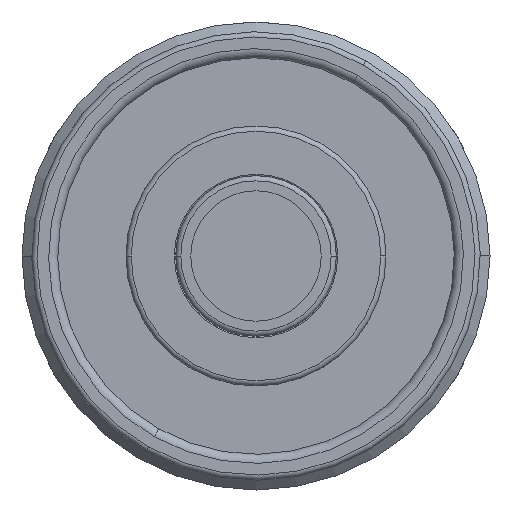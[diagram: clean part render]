
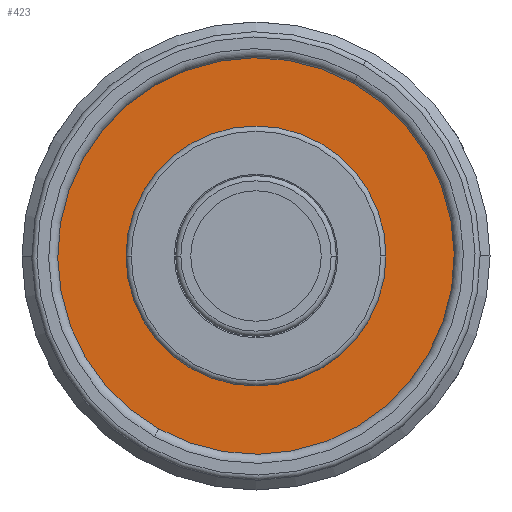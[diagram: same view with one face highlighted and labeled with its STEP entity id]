
A CAD part, front view. The second image highlights one B-rep face of the part: STEP entity #423.
In plain terms, the highlighted planar face has unit normal (0, -1, 0).
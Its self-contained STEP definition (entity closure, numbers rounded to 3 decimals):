
#206=PLANE('',#2432);
#244=FACE_BOUND('',#734,.T.);
#245=FACE_BOUND('',#735,.T.);
#423=ADVANCED_FACE('',(#244,#245),#206,.F.);
#734=EDGE_LOOP('',(#1385,#1386));
#735=EDGE_LOOP('',(#1387,#1388));
#1385=ORIENTED_EDGE('',*,*,#1948,.T.);
#1386=ORIENTED_EDGE('',*,*,#1923,.T.);
#1387=ORIENTED_EDGE('',*,*,#1929,.T.);
#1388=ORIENTED_EDGE('',*,*,#1947,.T.);
#1668=VERTEX_POINT('',#3869);
#1669=VERTEX_POINT('',#3870);
#1670=VERTEX_POINT('',#3878);
#1671=VERTEX_POINT('',#3880);
#1923=EDGE_CURVE('',#1668,#1669,#2131,.T.);
#1929=EDGE_CURVE('',#1671,#1670,#2134,.T.);
#1947=EDGE_CURVE('',#1670,#1671,#2149,.T.);
#1948=EDGE_CURVE('',#1669,#1668,#2150,.T.);
#2131=CIRCLE('',#2399,16.9);
#2134=CIRCLE('',#2404,10.);
#2149=CIRCLE('',#2429,10.);
#2150=CIRCLE('',#2431,16.9);
#2399=AXIS2_PLACEMENT_3D('',#3868,#3014,#3015);
#2404=AXIS2_PLACEMENT_3D('',#3879,#3027,#3028);
#2429=AXIS2_PLACEMENT_3D('',#3916,#3080,#3081);
#2431=AXIS2_PLACEMENT_3D('',#3918,#3084,#3085);
#2432=AXIS2_PLACEMENT_3D('',#3919,#3086,#3087);
#3014=DIRECTION('',(0.,-1.,0.));
#3015=DIRECTION('',(-1.,0.,0.));
#3027=DIRECTION('',(0.,1.,0.));
#3028=DIRECTION('',(-1.,0.,0.));
#3080=DIRECTION('',(0.,1.,0.));
#3081=DIRECTION('',(-1.,0.,0.));
#3084=DIRECTION('',(0.,-1.,0.));
#3085=DIRECTION('',(-1.,0.,0.));
#3086=DIRECTION('',(0.,1.,0.));
#3087=DIRECTION('',(1.,0.,0.));
#3868=CARTESIAN_POINT('',(0.,21.6,0.));
#3869=CARTESIAN_POINT('',(16.9,21.6,0.));
#3870=CARTESIAN_POINT('',(-16.9,21.6,0.));
#3878=CARTESIAN_POINT('',(10.,21.6,0.));
#3879=CARTESIAN_POINT('',(0.,21.6,0.));
#3880=CARTESIAN_POINT('',(-10.,21.6,0.));
#3916=CARTESIAN_POINT('',(0.,21.6,0.));
#3918=CARTESIAN_POINT('',(0.,21.6,0.));
#3919=CARTESIAN_POINT('',(17.1,21.6,0.));
